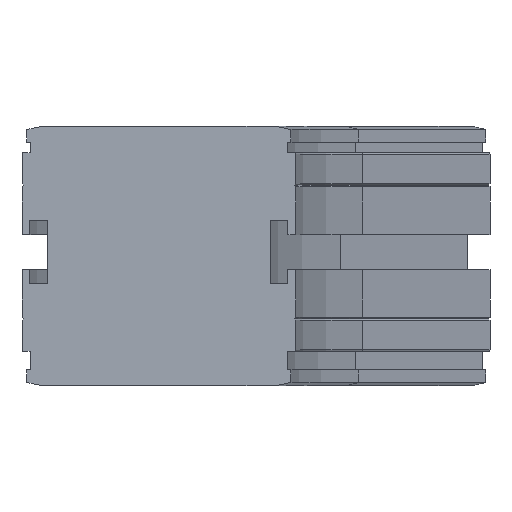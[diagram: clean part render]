
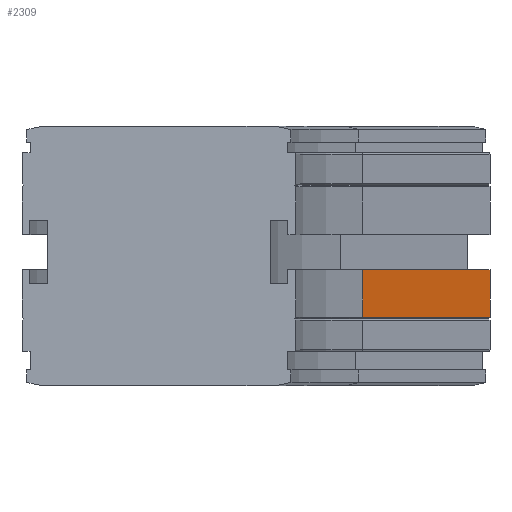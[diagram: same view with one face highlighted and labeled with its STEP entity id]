
A CAD part, left-side view. The second image highlights one B-rep face of the part: STEP entity #2309.
In plain terms, the highlighted planar face has unit normal (-0.5, -0.866, 0).
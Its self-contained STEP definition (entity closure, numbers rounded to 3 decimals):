
#2253=CARTESIAN_POINT('',(227.782,-104.034,-60.));
#2254=VERTEX_POINT('',#2253);
#2261=CARTESIAN_POINT('',(158.5,-64.034,-60.));
#2262=VERTEX_POINT('',#2261);
#2263=CARTESIAN_POINT('',(158.5,-64.034,-60.));
#2264=DIRECTION('',(0.866,-0.5,0.0));
#2265=VECTOR('',#2264,80.);
#2266=LINE('',#2263,#2265);
#2267=EDGE_CURVE('',#2262,#2254,#2266,.T.);
#2279=CARTESIAN_POINT('',(158.5,-64.034,-60.));
#2280=DIRECTION('',(-0.5,-0.866,0.));
#2281=DIRECTION('',(0.0,0.0,-1.0));
#2282=AXIS2_PLACEMENT_3D('',#2279,#2280,#2281);
#2283=PLANE('',#2282);
#2284=CARTESIAN_POINT('',(227.782,-104.034,-45.));
#2285=VERTEX_POINT('',#2284);
#2286=CARTESIAN_POINT('',(227.782,-104.034,-60.));
#2287=DIRECTION('',(0.0,0.0,1.0));
#2288=VECTOR('',#2287,15.0);
#2289=LINE('',#2286,#2288);
#2290=EDGE_CURVE('',#2254,#2285,#2289,.T.);
#2291=ORIENTED_EDGE('',*,*,#2290,.T.);
#2292=CARTESIAN_POINT('',(158.5,-64.034,-45.));
#2293=VERTEX_POINT('',#2292);
#2294=CARTESIAN_POINT('',(158.5,-64.034,-45.));
#2295=DIRECTION('',(0.866,-0.5,0.0));
#2296=VECTOR('',#2295,80.);
#2297=LINE('',#2294,#2296);
#2298=EDGE_CURVE('',#2293,#2285,#2297,.T.);
#2299=ORIENTED_EDGE('',*,*,#2298,.F.);
#2300=CARTESIAN_POINT('',(158.5,-64.034,-60.));
#2301=DIRECTION('',(0.0,0.0,1.0));
#2302=VECTOR('',#2301,15.0);
#2303=LINE('',#2300,#2302);
#2304=EDGE_CURVE('',#2262,#2293,#2303,.T.);
#2305=ORIENTED_EDGE('',*,*,#2304,.F.);
#2306=ORIENTED_EDGE('',*,*,#2267,.T.);
#2307=EDGE_LOOP('',(#2291,#2299,#2305,#2306));
#2308=FACE_OUTER_BOUND('',#2307,.T.);
#2309=ADVANCED_FACE('',(#2308),#2283,.T.);
